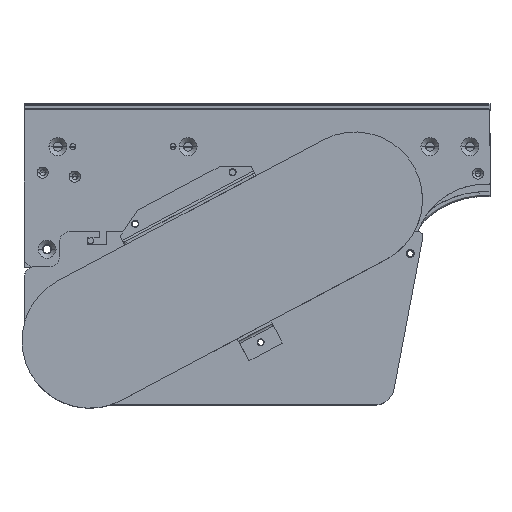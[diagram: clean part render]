
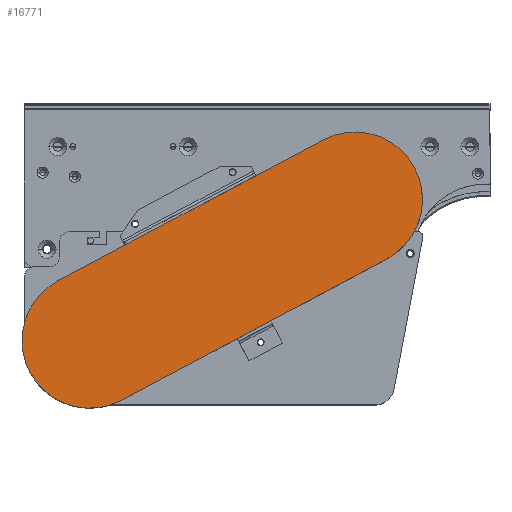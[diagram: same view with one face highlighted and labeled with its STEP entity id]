
A CAD part, top view. The second image highlights one B-rep face of the part: STEP entity #16771.
In plain terms, the highlighted planar face has unit normal (0, 0, 1).
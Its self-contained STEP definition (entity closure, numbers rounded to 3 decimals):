
#143 = VERTEX_POINT ( 'NONE', #3606 ) ;
#411 = CARTESIAN_POINT ( 'NONE',  ( 5.6, -225.449, 123.5 ) ) ;
#480 = CARTESIAN_POINT ( 'NONE',  ( 298.406, 6.679, 123.5 ) ) ;
#848 = DIRECTION ( 'NONE',  ( 0., 0., 1. ) ) ;
#895 = VERTEX_POINT ( 'NONE', #411 ) ;
#1925 = EDGE_LOOP ( 'NONE', ( #22100, #17243, #18434, #18646, #3006, #2450, #23723, #7062, #22691 ) ) ;
#2355 = CARTESIAN_POINT ( 'NONE',  ( 389.685, -21.235, 123.5 ) ) ;
#2450 = ORIENTED_EDGE ( 'NONE', *, *, #10270, .T. ) ;
#2642 = CARTESIAN_POINT ( 'NONE',  ( 330.087, -52.925, 123.5 ) ) ;
#2676 = VECTOR ( 'NONE', #19422, 1000. ) ;
#2727 = CARTESIAN_POINT ( 'NONE',  ( 5.605, -225.458, 123.5 ) ) ;
#3006 = ORIENTED_EDGE ( 'NONE', *, *, #4448, .T. ) ;
#3104 = LINE ( 'NONE', #5273, #10642 ) ;
#3123 = CIRCLE ( 'NONE', #13302, 67.49 ) ;
#3278 = LINE ( 'NONE', #2355, #2676 ) ;
#3354 = PLANE ( 'NONE',  #16530 ) ;
#3565 = CIRCLE ( 'NONE', #15702, 67.5 ) ;
#3606 = CARTESIAN_POINT ( 'NONE',  ( 389.681, -21.226, 123.5 ) ) ;
#3614 = AXIS2_PLACEMENT_3D ( 'NONE', #4923, #848, #14384 ) ;
#3706 = VERTEX_POINT ( 'NONE', #480 ) ;
#4289 = CARTESIAN_POINT ( 'NONE',  ( -2.3, -193.764, 123.5 ) ) ;
#4448 = EDGE_CURVE ( 'NONE', #18807, #22137, #24933, .T. ) ;
#4923 = CARTESIAN_POINT ( 'NONE',  ( 65.19, -193.764, 123.5 ) ) ;
#5273 = CARTESIAN_POINT ( 'NONE',  ( 298.406, 6.679, 123.5 ) ) ;
#6221 = AXIS2_PLACEMENT_3D ( 'NONE', #24392, #18810, #16580 ) ;
#6236 = CIRCLE ( 'NONE', #3614, 67.49 ) ;
#7062 = ORIENTED_EDGE ( 'NONE', *, *, #15675, .T. ) ;
#7322 = CARTESIAN_POINT ( 'NONE',  ( 389.685, -21.235, 123.5 ) ) ;
#7547 = VECTOR ( 'NONE', #11474, 1000. ) ;
#7614 = VERTEX_POINT ( 'NONE', #18698 ) ;
#8496 = EDGE_CURVE ( 'NONE', #23225, #143, #3278, .T. ) ;
#8675 = EDGE_CURVE ( 'NONE', #10259, #18807, #3565, .T. ) ;
#10259 = VERTEX_POINT ( 'NONE', #2727 ) ;
#10270 = EDGE_CURVE ( 'NONE', #22137, #23225, #22364, .T. ) ;
#10642 = VECTOR ( 'NONE', #11112, 1000. ) ;
#11112 = DIRECTION ( 'NONE',  ( -0.883, -0.469, 0. ) ) ;
#11474 = DIRECTION ( 'NONE',  ( 0.469, -0.883, 0. ) ) ;
#11552 = EDGE_CURVE ( 'NONE', #22498, #895, #14430, .T. ) ;
#12462 = CARTESIAN_POINT ( 'NONE',  ( 65.204, -193.768, 123.5 ) ) ;
#12693 = LINE ( 'NONE', #17468, #7547 ) ;
#13302 = AXIS2_PLACEMENT_3D ( 'NONE', #14579, #22336, #14661 ) ;
#14384 = DIRECTION ( 'NONE',  ( 1., 0., 0. ) ) ;
#14400 = DIRECTION ( 'NONE',  ( 1., 0., 0. ) ) ;
#14430 = CIRCLE ( 'NONE', #6221, 67.49 ) ;
#14579 = CARTESIAN_POINT ( 'NONE',  ( 330.091, -52.911, 123.5 ) ) ;
#14661 = DIRECTION ( 'NONE',  ( 1., 0., 0. ) ) ;
#14694 = VECTOR ( 'NONE', #18573, 1000. ) ;
#14904 = DIRECTION ( 'NONE',  ( 0., 0., 1. ) ) ;
#15675 = EDGE_CURVE ( 'NONE', #143, #3706, #3123, .T. ) ;
#15702 = AXIS2_PLACEMENT_3D ( 'NONE', #12462, #22411, #14400 ) ;
#16145 = DIRECTION ( 'NONE',  ( 1., 0., 0. ) ) ;
#16367 = EDGE_CURVE ( 'NONE', #895, #10259, #12693, .T. ) ;
#16530 = AXIS2_PLACEMENT_3D ( 'NONE', #16779, #14904, #24178 ) ;
#16580 = DIRECTION ( 'NONE',  ( 1., 0., 0. ) ) ;
#16771 = ADVANCED_FACE ( 'NONE', ( #18742 ), #3354, .T. ) ;
#16779 = CARTESIAN_POINT ( 'NONE',  ( 65.19, -193.764, 123.5 ) ) ;
#17232 = CARTESIAN_POINT ( 'NONE',  ( 96.893, -253.367, 123.5 ) ) ;
#17243 = ORIENTED_EDGE ( 'NONE', *, *, #11552, .T. ) ;
#17468 = CARTESIAN_POINT ( 'NONE',  ( 5.6, -225.449, 123.5 ) ) ;
#18284 = EDGE_CURVE ( 'NONE', #7614, #22498, #6236, .T. ) ;
#18434 = ORIENTED_EDGE ( 'NONE', *, *, #16367, .T. ) ;
#18573 = DIRECTION ( 'NONE',  ( 0.883, 0.469, 0. ) ) ;
#18646 = ORIENTED_EDGE ( 'NONE', *, *, #8675, .T. ) ;
#18698 = CARTESIAN_POINT ( 'NONE',  ( 33.505, -134.174, 123.5 ) ) ;
#18742 = FACE_OUTER_BOUND ( 'NONE', #1925, .T. ) ;
#18807 = VERTEX_POINT ( 'NONE', #17232 ) ;
#18810 = DIRECTION ( 'NONE',  ( 0., 0., 1. ) ) ;
#19422 = DIRECTION ( 'NONE',  ( -0.469, 0.883, 0. ) ) ;
#20241 = CARTESIAN_POINT ( 'NONE',  ( 96.893, -253.367, 123.5 ) ) ;
#20502 = CARTESIAN_POINT ( 'NONE',  ( 361.777, -112.523, 123.5 ) ) ;
#22100 = ORIENTED_EDGE ( 'NONE', *, *, #18284, .T. ) ;
#22137 = VERTEX_POINT ( 'NONE', #20502 ) ;
#22336 = DIRECTION ( 'NONE',  ( 0., 0., 1. ) ) ;
#22364 = CIRCLE ( 'NONE', #23350, 67.5 ) ;
#22411 = DIRECTION ( 'NONE',  ( 0., 0., 1. ) ) ;
#22498 = VERTEX_POINT ( 'NONE', #4289 ) ;
#22691 = ORIENTED_EDGE ( 'NONE', *, *, #23847, .T. ) ;
#23225 = VERTEX_POINT ( 'NONE', #7322 ) ;
#23350 = AXIS2_PLACEMENT_3D ( 'NONE', #2642, #24134, #16145 ) ;
#23723 = ORIENTED_EDGE ( 'NONE', *, *, #8496, .T. ) ;
#23847 = EDGE_CURVE ( 'NONE', #3706, #7614, #3104, .T. ) ;
#24134 = DIRECTION ( 'NONE',  ( 0., 0., 1. ) ) ;
#24178 = DIRECTION ( 'NONE',  ( 1., 0., 0. ) ) ;
#24392 = CARTESIAN_POINT ( 'NONE',  ( 65.19, -193.764, 123.5 ) ) ;
#24933 = LINE ( 'NONE', #20241, #14694 ) ;
